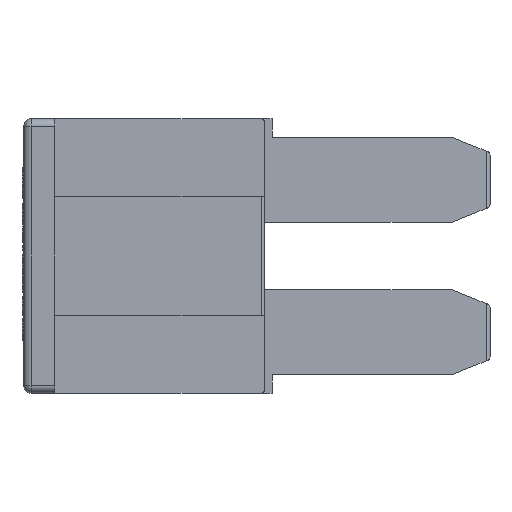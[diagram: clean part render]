
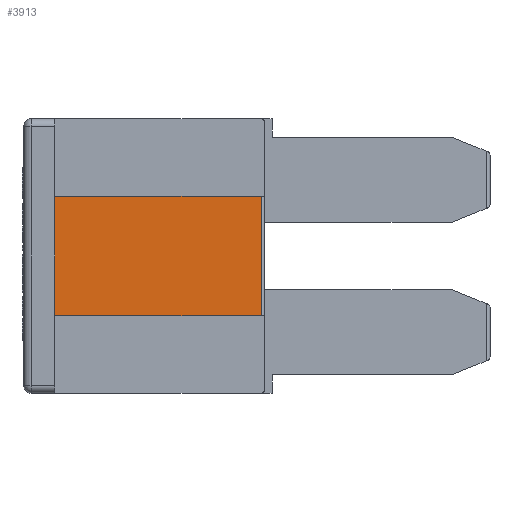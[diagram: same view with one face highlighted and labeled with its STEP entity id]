
A CAD part, left-side view. The second image highlights one B-rep face of the part: STEP entity #3913.
In plain terms, the highlighted planar face has unit normal (-1, 0, 0).
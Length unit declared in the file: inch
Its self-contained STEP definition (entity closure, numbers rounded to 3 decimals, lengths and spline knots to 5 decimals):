
#336=FACE_OUTER_BOUND('',#553,.T.);
#553=EDGE_LOOP('',(#2719,#2720,#2721,#2722));
#819=LINE('',#5258,#1235);
#834=LINE('',#5292,#1250);
#843=LINE('',#5315,#1259);
#844=LINE('',#5318,#1260);
#1235=VECTOR('',#4430,0.3937);
#1250=VECTOR('',#4455,0.3937);
#1259=VECTOR('',#4474,0.3937);
#1260=VECTOR('',#4479,0.3937);
#1632=VERTEX_POINT('',#5256);
#1633=VERTEX_POINT('',#5257);
#1646=VERTEX_POINT('',#5290);
#1647=VERTEX_POINT('',#5291);
#2044=EDGE_CURVE('',#1632,#1633,#819,.T.);
#2061=EDGE_CURVE('',#1646,#1647,#834,.T.);
#2073=EDGE_CURVE('',#1646,#1633,#843,.T.);
#2075=EDGE_CURVE('',#1632,#1647,#844,.T.);
#2719=ORIENTED_EDGE('',*,*,#2044,.T.);
#2720=ORIENTED_EDGE('',*,*,#2073,.F.);
#2721=ORIENTED_EDGE('',*,*,#2061,.T.);
#2722=ORIENTED_EDGE('',*,*,#2075,.F.);
#3788=PLANE('',#4157);
#3913=ADVANCED_FACE('',(#336),#3788,.T.);
#4157=AXIS2_PLACEMENT_3D('',#5317,#4477,#4478);
#4430=DIRECTION('',(0.,1.,0.));
#4455=DIRECTION('',(0.,-1.,0.));
#4474=DIRECTION('',(0.,0.,1.));
#4477=DIRECTION('center_axis',(-1.,0.,0.));
#4478=DIRECTION('ref_axis',(0.,-1.,0.));
#4479=DIRECTION('',(0.,0.,-1.));
#5256=CARTESIAN_POINT('',(-0.0648,-0.30702,0.07717));
#5257=CARTESIAN_POINT('',(-0.0648,-0.04,0.07717));
#5258=CARTESIAN_POINT('',(-0.0648,-0.17551,0.07717));
#5290=CARTESIAN_POINT('',(-0.0648,-0.04,-0.07717));
#5291=CARTESIAN_POINT('',(-0.0648,-0.30702,-0.07717));
#5292=CARTESIAN_POINT('',(-0.0648,-0.17551,-0.07717));
#5315=CARTESIAN_POINT('',(-0.0648,-0.04,-0.08858));
#5317=CARTESIAN_POINT('Origin',(-0.0648,-0.04,-0.17717));
#5318=CARTESIAN_POINT('',(-0.0648,-0.30702,-0.17717));
